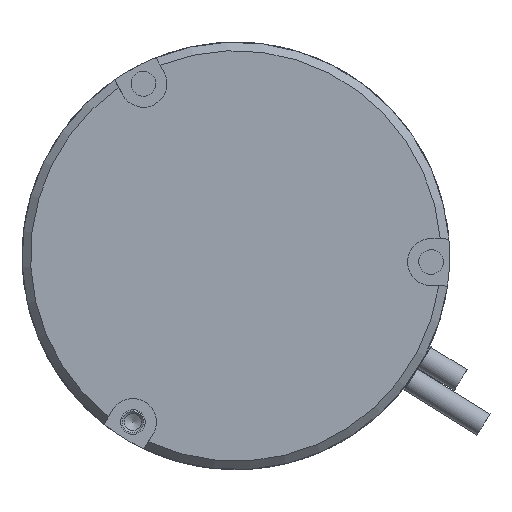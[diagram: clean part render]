
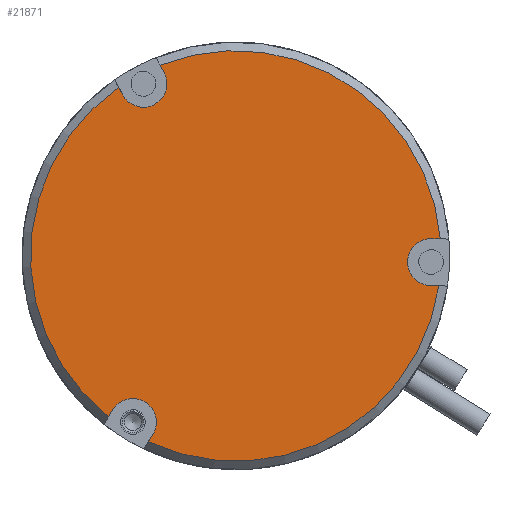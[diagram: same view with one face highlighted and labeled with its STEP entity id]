
A CAD part, left-side view. The second image highlights one B-rep face of the part: STEP entity #21871.
In plain terms, the highlighted planar face has unit normal (-1, 0, 0) as drawn and (0, 0, -1) by its records, which use the part's own axes.
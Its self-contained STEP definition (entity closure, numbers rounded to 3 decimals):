
#21129=CARTESIAN_POINT('',(19.273,-14.303,0.0));
#21130=VERTEX_POINT('',#21129);
#21140=CARTESIAN_POINT('',(18.414,-13.807,0.0));
#21141=VERTEX_POINT('',#21140);
#21142=CARTESIAN_POINT('',(18.414,-13.807,0.0));
#21143=DIRECTION('',(0.866,-0.5,0.0));
#21144=VECTOR('',#21143,0.992);
#21145=LINE('',#21142,#21144);
#21146=EDGE_CURVE('',#21141,#21130,#21145,.T.);
#21196=CARTESIAN_POINT('',(21.164,-9.043,0.0));
#21197=VERTEX_POINT('',#21196);
#21204=CARTESIAN_POINT('',(22.023,-9.539,0.));
#21205=VERTEX_POINT('',#21204);
#21206=CARTESIAN_POINT('',(22.023,-9.539,0.));
#21207=DIRECTION('',(-0.866,0.5,0.));
#21208=VECTOR('',#21207,0.992);
#21209=LINE('',#21206,#21208);
#21210=EDGE_CURVE('',#21205,#21197,#21209,.T.);
#21227=CARTESIAN_POINT('',(-22.023,-9.539,0.0));
#21228=VERTEX_POINT('',#21227);
#21238=CARTESIAN_POINT('',(-21.164,-9.043,0.0));
#21239=VERTEX_POINT('',#21238);
#21240=CARTESIAN_POINT('',(-21.164,-9.043,0.0));
#21241=DIRECTION('',(-0.866,-0.5,0.0));
#21242=VECTOR('',#21241,0.992);
#21243=LINE('',#21240,#21242);
#21244=EDGE_CURVE('',#21239,#21228,#21243,.T.);
#21278=CARTESIAN_POINT('',(-19.273,-14.303,0.0));
#21279=VERTEX_POINT('',#21278);
#21303=CARTESIAN_POINT('',(-18.414,-13.807,0.0));
#21304=VERTEX_POINT('',#21303);
#21311=CARTESIAN_POINT('',(-19.273,-14.303,0.0));
#21312=DIRECTION('',(0.866,0.5,0.0));
#21313=VECTOR('',#21312,0.992);
#21314=LINE('',#21311,#21313);
#21315=EDGE_CURVE('',#21279,#21304,#21314,.T.);
#21370=CARTESIAN_POINT('',(-2.75,23.842,0.0));
#21371=VERTEX_POINT('',#21370);
#21379=CARTESIAN_POINT('',(0.0,0.0,0.0));
#21380=DIRECTION('',(0.0,0.0,1.0));
#21381=DIRECTION('',(-1.0,0.0,0.0));
#21382=AXIS2_PLACEMENT_3D('',#21379,#21380,#21381);
#21383=CIRCLE('',#21382,24.);
#21384=EDGE_CURVE('',#21371,#21228,#21383,.T.);
#21438=CARTESIAN_POINT('',(0.0,0.0,0.0));
#21439=DIRECTION('',(0.0,0.0,1.0));
#21440=DIRECTION('',(-1.0,0.0,0.0));
#21441=AXIS2_PLACEMENT_3D('',#21438,#21439,#21440);
#21442=CIRCLE('',#21441,24.);
#21443=EDGE_CURVE('',#21279,#21130,#21442,.T.);
#21507=CARTESIAN_POINT('',(2.75,23.842,0.0));
#21508=VERTEX_POINT('',#21507);
#21516=CARTESIAN_POINT('',(2.75,22.85,0.0));
#21517=VERTEX_POINT('',#21516);
#21518=CARTESIAN_POINT('',(2.75,22.85,0.0));
#21519=DIRECTION('',(0.0,1.0,0.0));
#21520=VECTOR('',#21519,0.992);
#21521=LINE('',#21518,#21520);
#21522=EDGE_CURVE('',#21517,#21508,#21521,.T.);
#21557=CARTESIAN_POINT('',(-2.75,22.85,0.0));
#21558=VERTEX_POINT('',#21557);
#21565=CARTESIAN_POINT('',(-2.75,23.842,0.0));
#21566=DIRECTION('',(0.0,-1.0,0.0));
#21567=VECTOR('',#21566,0.992);
#21568=LINE('',#21565,#21567);
#21569=EDGE_CURVE('',#21371,#21558,#21568,.T.);
#21580=CARTESIAN_POINT('',(0.0,0.0,0.0));
#21581=DIRECTION('',(0.0,0.0,1.0));
#21582=DIRECTION('',(-1.0,0.0,0.0));
#21583=AXIS2_PLACEMENT_3D('',#21580,#21581,#21582);
#21584=CIRCLE('',#21583,24.);
#21585=EDGE_CURVE('',#21205,#21508,#21584,.T.);
#21768=CARTESIAN_POINT('',(19.789,-11.425,0.0));
#21769=DIRECTION('',(0.0,0.0,1.0));
#21770=DIRECTION('',(0.5,0.866,0.0));
#21771=AXIS2_PLACEMENT_3D('',#21768,#21769,#21770);
#21772=CIRCLE('',#21771,2.75);
#21773=EDGE_CURVE('',#21197,#21141,#21772,.T.);
#21798=CARTESIAN_POINT('',(-19.789,-11.425,0.0));
#21799=DIRECTION('',(0.0,0.0,1.));
#21800=DIRECTION('',(0.5,-0.866,0.0));
#21801=AXIS2_PLACEMENT_3D('',#21798,#21799,#21800);
#21802=CIRCLE('',#21801,2.75);
#21803=EDGE_CURVE('',#21304,#21239,#21802,.T.);
#21828=CARTESIAN_POINT('',(0.0,22.85,0.0));
#21829=DIRECTION('',(0.0,0.0,1.0));
#21830=DIRECTION('',(-1.0,0.0,0.0));
#21831=AXIS2_PLACEMENT_3D('',#21828,#21829,#21830);
#21832=CIRCLE('',#21831,2.75);
#21833=EDGE_CURVE('',#21558,#21517,#21832,.T.);
#21852=CARTESIAN_POINT('',(0.0,0.0,0.0));
#21853=DIRECTION('',(0.0,0.0,-1.0));
#21854=DIRECTION('',(-1.0,0.0,0.0));
#21855=AXIS2_PLACEMENT_3D('',#21852,#21853,#21854);
#21856=PLANE('',#21855);
#21857=ORIENTED_EDGE('',*,*,#21146,.T.);
#21858=ORIENTED_EDGE('',*,*,#21443,.F.);
#21859=ORIENTED_EDGE('',*,*,#21315,.T.);
#21860=ORIENTED_EDGE('',*,*,#21803,.T.);
#21861=ORIENTED_EDGE('',*,*,#21244,.T.);
#21862=ORIENTED_EDGE('',*,*,#21384,.F.);
#21863=ORIENTED_EDGE('',*,*,#21569,.T.);
#21864=ORIENTED_EDGE('',*,*,#21833,.T.);
#21865=ORIENTED_EDGE('',*,*,#21522,.T.);
#21866=ORIENTED_EDGE('',*,*,#21585,.F.);
#21867=ORIENTED_EDGE('',*,*,#21210,.T.);
#21868=ORIENTED_EDGE('',*,*,#21773,.T.);
#21869=EDGE_LOOP('',(#21857,#21858,#21859,#21860,#21861,#21862,#21863,#21864,#21865,#21866,#21867,#21868));
#21870=FACE_OUTER_BOUND('',#21869,.T.);
#21871=ADVANCED_FACE('',(#21870),#21856,.T.);
